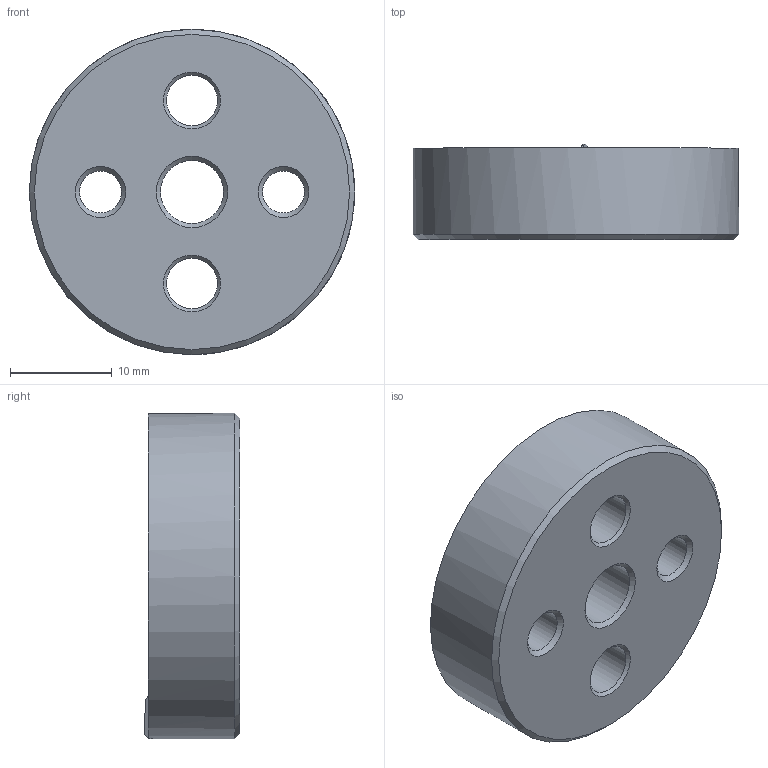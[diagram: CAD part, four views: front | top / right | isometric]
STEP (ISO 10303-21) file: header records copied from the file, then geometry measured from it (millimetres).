
FILE_DESCRIPTION( ( 'STEP AP203' ), '1' );
FILE_NAME( 'C:/Temp/Ganter_Step_05_03_2020/data/3_2/gn187_4/gn187_4_st/Serrated locking plate GN 187.4-32-60-D-ST.stp', '2020-03-13T05:25:48', ( 'License CC BY-ND 4.0' ), ( 'CADENAS' ), ' ', 'PARTsolutions', ' ' );
FILE_SCHEMA( ( 'CONFIG_CONTROL_DESIGN' ) );
Length unit declared in the file: millimetre
Products named in the file (1): _Serrated locking plate GN 187.4-32-60-D-ST
Bounding box: 32 x 9.43 x 32 mm (x, y, z)
Volume: 6009.5 mm3; surface area: 2954.9 mm2
Topology: 1 solids, 1 shells, 31 faces, 77 edges, 48 vertices
Faces by surface type: cone 15, cylinder 9, plane 7
Full cylindrical faces by diameter (mm): 4.134 x2, 5 x2, 6.2 x1, 23.5 x1, 32 x1
Entity records: 960 total; most frequent: CARTESIAN_POINT 241, DIRECTION 146, ORIENTED_EDGE 112, AXIS2_PLACEMENT_3D 70, EDGE_LOOP 59, EDGE_CURVE 56, VERTEX_POINT 45, FACE_OUTER_BOUND 38
